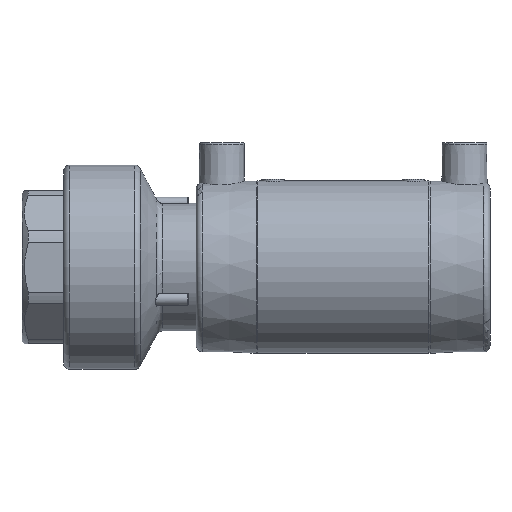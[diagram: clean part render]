
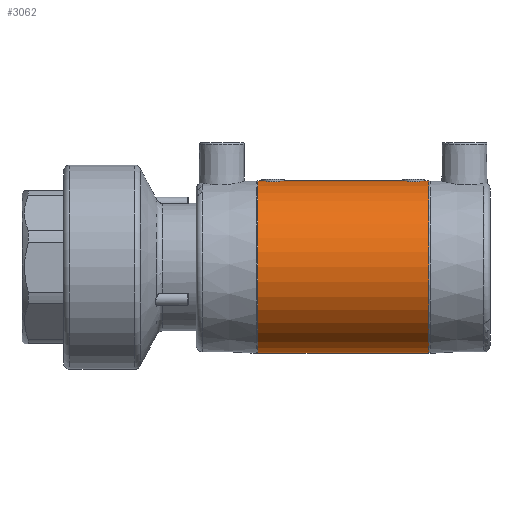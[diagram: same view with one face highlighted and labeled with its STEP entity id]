
A CAD part, front view. The second image highlights one B-rep face of the part: STEP entity #3062.
In plain terms, the highlighted cylindrical face has radius 27 mm (diameter 54 mm), a full revolution.
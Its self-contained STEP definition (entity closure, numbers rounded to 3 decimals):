
#549=CYLINDRICAL_SURFACE('',#3814,27.);
#620=B_SPLINE_CURVE_WITH_KNOTS('',3,(#5253,#5254,#5255,#5256,#5257,#5258,
#5259,#5260,#5261,#5262,#5263),.UNSPECIFIED.,.T.,.F.,(1,1,1,1,1,1,1,1,1,
1,1,1,1,1,1),(-0.008,-0.005,-0.003,
0.,0.003,0.005,0.008,
0.011,0.014,0.016,0.019,
0.022,0.025,0.027,0.03),
 .UNSPECIFIED.);
#621=B_SPLINE_CURVE_WITH_KNOTS('',3,(#5265,#5266,#5267,#5268,#5269,#5270,
#5271,#5272,#5273,#5274,#5275),.UNSPECIFIED.,.T.,.F.,(1,1,1,1,1,1,1,1,1,
1,1,1,1,1,1),(-0.008,-0.005,-0.003,
0.,0.003,0.005,0.008,
0.011,0.014,0.016,0.019,
0.022,0.025,0.027,0.03),
 .UNSPECIFIED.);
#672=ORIENTED_EDGE('',*,*,#1542,.F.);
#673=ORIENTED_EDGE('',*,*,#1543,.F.);
#674=ORIENTED_EDGE('',*,*,#1544,.T.);
#675=ORIENTED_EDGE('',*,*,#1545,.T.);
#1542=EDGE_CURVE('',#1976,#1976,#620,.T.);
#1543=EDGE_CURVE('',#1977,#1977,#621,.T.);
#1544=EDGE_CURVE('',#1978,#1978,#2280,.F.);
#1545=EDGE_CURVE('',#1979,#1979,#2281,.T.);
#1976=VERTEX_POINT('',#5264);
#1977=VERTEX_POINT('',#5276);
#1978=VERTEX_POINT('',#5278);
#1979=VERTEX_POINT('',#5280);
#2280=CIRCLE('',#3815,27.);
#2281=CIRCLE('',#3816,27.);
#2486=EDGE_LOOP('',(#672));
#2487=EDGE_LOOP('',(#673));
#2488=EDGE_LOOP('',(#674));
#2489=EDGE_LOOP('',(#675));
#2772=FACE_BOUND('',#2486,.T.);
#2773=FACE_BOUND('',#2487,.T.);
#2774=FACE_BOUND('',#2488,.T.);
#2775=FACE_BOUND('',#2489,.T.);
#3062=ADVANCED_FACE('',(#2772,#2773,#2774,#2775),#549,.T.);
#3814=AXIS2_PLACEMENT_3D('',#5252,#4227,#4228);
#3815=AXIS2_PLACEMENT_3D('',#5277,#4229,#4230);
#3816=AXIS2_PLACEMENT_3D('',#5279,#4231,#4232);
#4227=DIRECTION('',(-1.,0.,0.));
#4228=DIRECTION('',(0.,0.,1.));
#4229=DIRECTION('',(1.,0.,0.));
#4230=DIRECTION('',(0.,0.,-1.));
#4231=DIRECTION('',(1.,0.,0.));
#4232=DIRECTION('',(0.,0.,-1.));
#5252=CARTESIAN_POINT('',(-60.,0.,0.));
#5253=CARTESIAN_POINT('',(24.74,-2.746,26.886));
#5254=CARTESIAN_POINT('',(25.88,0.001,27.057));
#5255=CARTESIAN_POINT('',(24.741,2.743,26.887));
#5256=CARTESIAN_POINT('',(22.003,3.878,26.715));
#5257=CARTESIAN_POINT('',(19.258,2.744,26.886));
#5258=CARTESIAN_POINT('',(18.122,0.001,27.057));
#5259=CARTESIAN_POINT('',(19.255,-2.739,26.887));
#5260=CARTESIAN_POINT('',(21.997,-3.879,26.715));
#5261=CARTESIAN_POINT('',(24.74,-2.746,26.886));
#5262=CARTESIAN_POINT('',(25.88,0.001,27.057));
#5263=CARTESIAN_POINT('',(24.741,2.743,26.887));
#5264=CARTESIAN_POINT('',(25.5,0.,27.));
#5265=CARTESIAN_POINT('',(-19.26,-2.746,26.886));
#5266=CARTESIAN_POINT('',(-18.12,0.001,27.057));
#5267=CARTESIAN_POINT('',(-19.259,2.743,26.887));
#5268=CARTESIAN_POINT('',(-21.997,3.878,26.715));
#5269=CARTESIAN_POINT('',(-24.742,2.744,26.886));
#5270=CARTESIAN_POINT('',(-25.878,0.001,27.057));
#5271=CARTESIAN_POINT('',(-24.745,-2.739,26.887));
#5272=CARTESIAN_POINT('',(-22.003,-3.879,26.715));
#5273=CARTESIAN_POINT('',(-19.26,-2.746,26.886));
#5274=CARTESIAN_POINT('',(-18.12,0.001,27.057));
#5275=CARTESIAN_POINT('',(-19.259,2.743,26.887));
#5276=CARTESIAN_POINT('',(-18.5,0.,27.));
#5277=CARTESIAN_POINT('',(26.737,0.,0.));
#5278=CARTESIAN_POINT('',(26.737,0.,-27.));
#5279=CARTESIAN_POINT('',(-26.737,0.,0.));
#5280=CARTESIAN_POINT('',(-26.737,0.,-27.));
